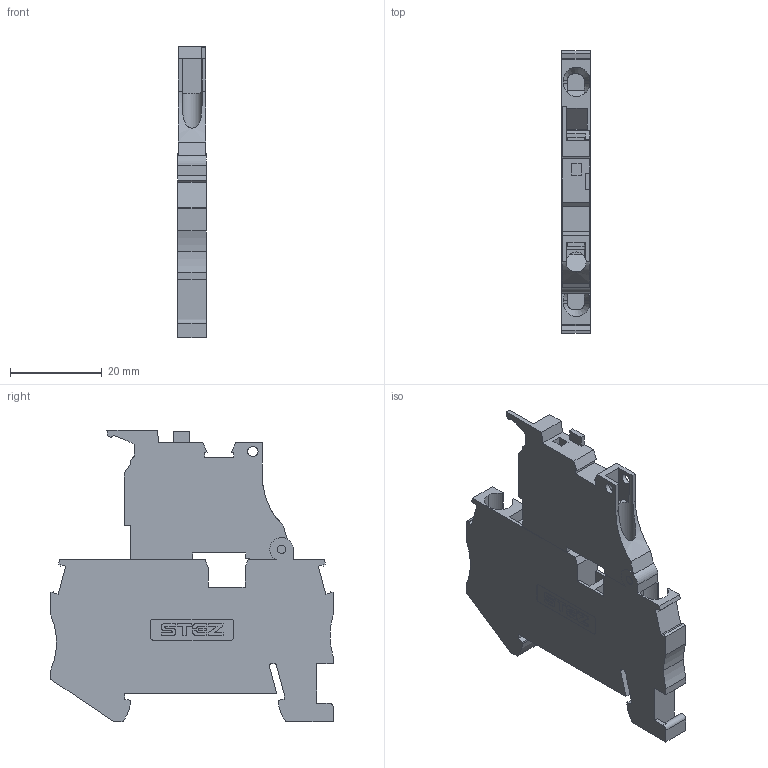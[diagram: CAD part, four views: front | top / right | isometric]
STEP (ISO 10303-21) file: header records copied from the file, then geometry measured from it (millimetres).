
FILE_DESCRIPTION(('TFLEX Exchange Step'),'2;1');
FILE_NAME('10200051_КНЗ_4-2-24_(5x20).stp', '2024-11-11T13:44:32+03:00',('apanin'),('Unknown organisation'),'TFLEX Exchange 2023.2','T-FLEX CAD','Unknown authorisation');
FILE_SCHEMA( ('AUTOMOTIVE_DESIGN { 1 0 10303 214 1 1 1 1 }') );
Length unit declared in the file: millimetre
Products named in the file (1): Nodes
Bounding box: 6.15 x 61.5 x 63.38 mm (x, y, z)
Surface area: 17576.2 mm2
Topology: 2 solids, 2 shells, 854 faces, 2460 edges, 1630 vertices
Faces by surface type: plane 440, cylinder 402, cone 12
Full cylindrical faces by diameter (mm): 1.85 x4, 2.25 x4, 4.35 x2
Entity records: 29037 total; most frequent: CARTESIAN_POINT 5881, ORIENTED_EDGE 4920, DIRECTION 4910, EDGE_CURVE 2460, AXIS2_PLACEMENT_3D 1663, VERTEX_POINT 1630, VECTOR 1584, LINE 1584
